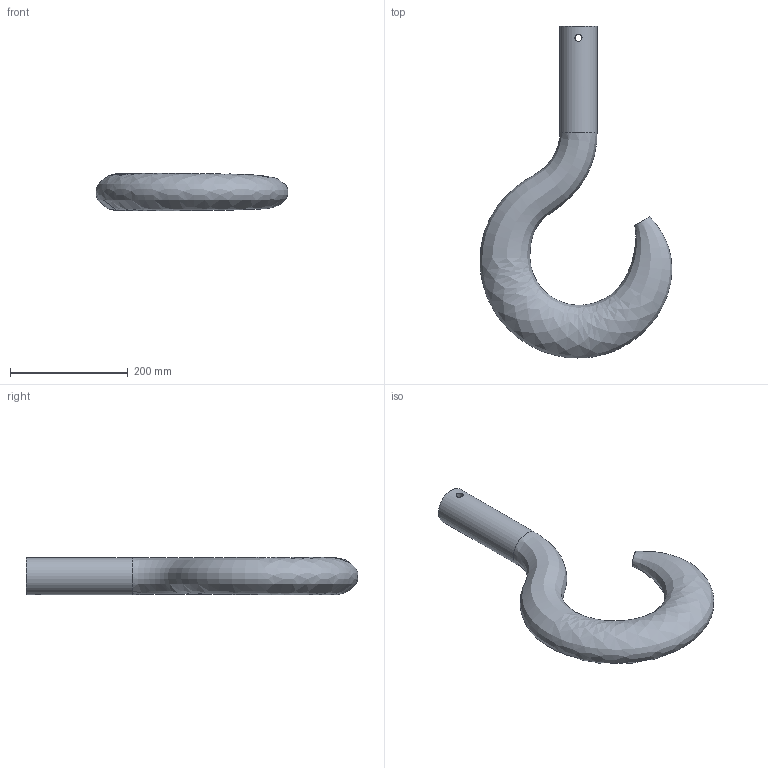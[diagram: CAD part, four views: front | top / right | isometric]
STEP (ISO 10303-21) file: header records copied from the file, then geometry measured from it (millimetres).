
FILE_DESCRIPTION(/* description */ (''),/* implementation_level */ '2;1');
FILE_NAME(/* name */ 'Hook.step',/* time_stamp */ '2026-10-06T11:32:04+05:30',/* author */ (''),/* organization */ (''),/* preprocessor_version */ 'ST-DEVELOPER v20.2',/* originating_system */ 'Autodesk Translation Framework v15.15.0.0',/* authorisation */ '');
FILE_SCHEMA (('AUTOMOTIVE_DESIGN { 1 0 10303 214 3 1 1 }'));
Length unit declared in the file: millimetre
Products named in the file (1): 2026-10-06-11-31-53-172
Bounding box: 325.65 x 563.1 x 63.76 mm (x, y, z)
Volume: 3211648.7 mm3; surface area: 197130.4 mm2
Topology: 1 solids, 1 shells, 5 faces, 11 edges, 8 vertices
Faces by surface type: cylinder 2, plane 2, bspline 1
Full cylindrical faces by diameter (mm): 12 x1, 63 x1
Entity records: 1471 total; most frequent: CARTESIAN_POINT 1321, DIRECTION 24, ORIENTED_EDGE 22, EDGE_CURVE 11, AXIS2_PLACEMENT_3D 11, VERTEX_POINT 8, EDGE_LOOP 7, CIRCLE 5
